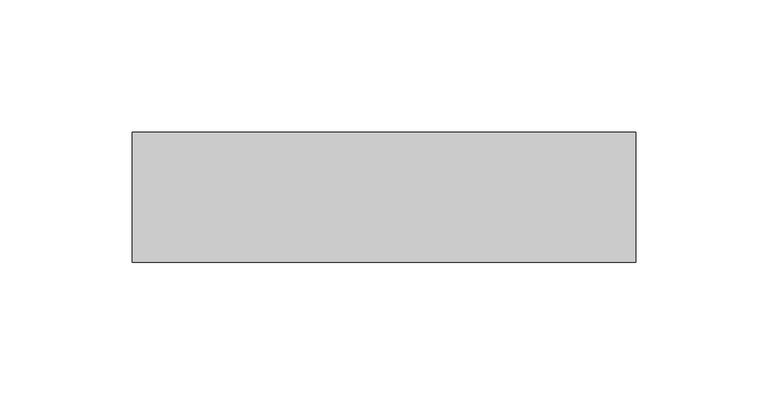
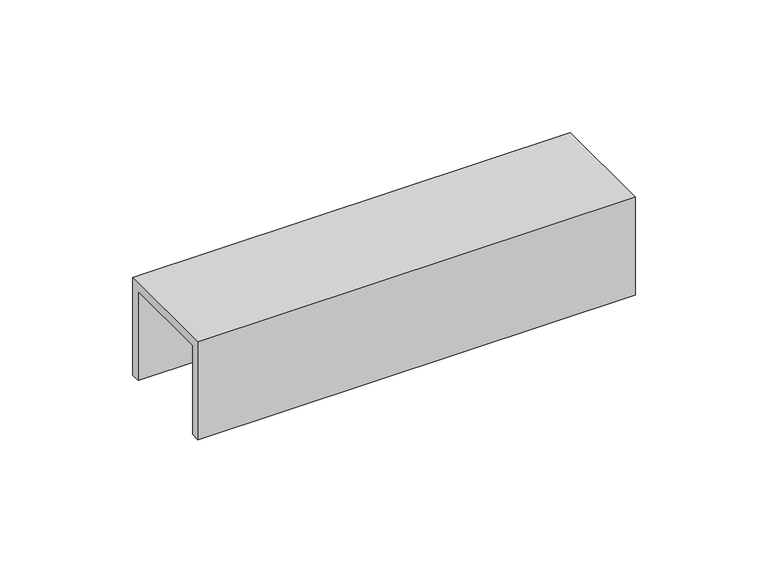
"""IFC4 building model written with IfcOpenShell, lengths in millimetres: proxy geometry, 4182I_Accessory-Basorfix : Basorfix 4182I GC70."""

from ifc_helpers import new_model, si_unit, frame, origin, place, context, project, spatial, polyline, outline, extrude, source, transform, mapped, element, save


def generic_models_0c86f282(model_context):
    return source(origin(), model_context, "Body", "SweptSolid", [
        extrude(outline(polyline([(-20.4842733, -41.0), (-24.4842733, -41.0), (-24.4842733, 4.0), (24.4842733, 4.0), (24.4842733, -41.0), (20.4842733, -41.0), (20.4842733, 0.0), (-20.4842733, 0.0), (-20.4842733, -41.0)])), frame((-95.0, 0.0, 0.0), z_axis=(1.0, 0.0, 0.0), x_axis=(0.0, 1.0, 0.0)), (0.0, 0.0, 1.0), 190.0),
    ])


if __name__ == "__main__":
    model = new_model("IFC4")
    model_context = context("Model", 3, world=origin())
    ifc_project = project(units=[si_unit("LENGTHUNIT", "METRE", prefix="MILLI")], contexts=[model_context])
    site = spatial("IfcSite", under=ifc_project)
    building = spatial("IfcBuilding", under=site)
    placement = place(None, origin())
    generic_models_shape = generic_models_0c86f282(model_context)
    element("IfcBuildingElementProxy", 1, Name="4182I_Accessory-Basorfix : Basorfix 4182I GC70", ObjectType="4182I_Accessory-Basorfix : Basorfix 4182I GC70", at=placement, inside=building, context=model_context, shape_type="MappedRepresentation", body=[
        mapped(generic_models_shape, transform((0.0, 0.0, 0.0), x_axis=(1.0, 0.0, 0.0), y_axis=(0.0, 1.0, 0.0), z_axis=(0.0, 0.0, 1.0))),
    ])
    save(model, "model.ifc")
